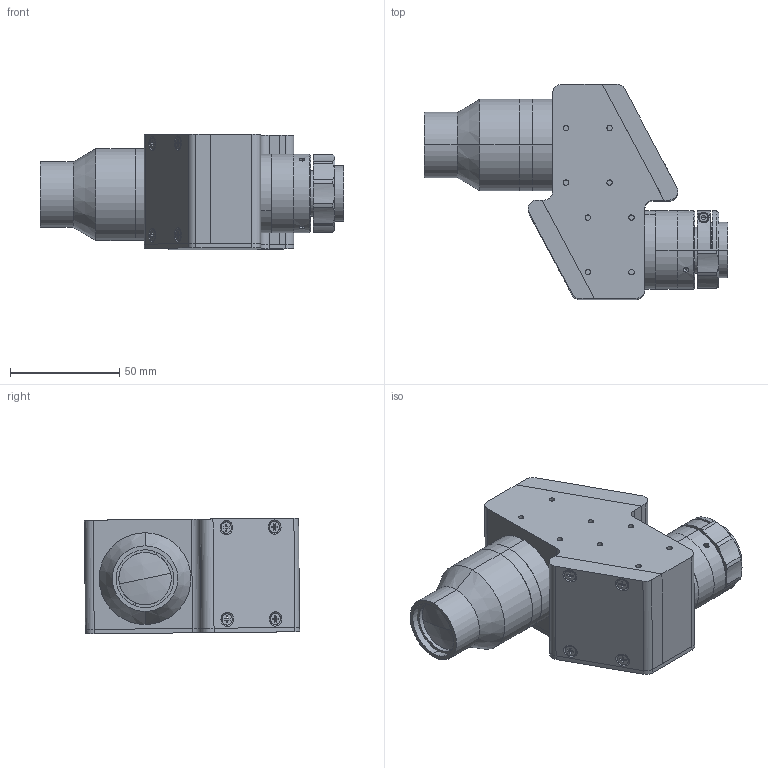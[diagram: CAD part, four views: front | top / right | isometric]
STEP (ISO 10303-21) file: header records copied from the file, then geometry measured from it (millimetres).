
FILE_DESCRIPTION (( 'STEP AP203' ), '1' );
FILE_NAME ('XF-MH08X213.STEP', '2020-08-24T07:13:59', ( 'canrill-02' ), ( '' ), 'SwSTEP 2.0', 'SolidWorks 2014', '' );
FILE_SCHEMA (( 'CONFIG_CONTROL_DESIGN' ));
Length unit declared in the file: millimetre
Products named in the file (1): XF-MH08X213
Bounding box: 138.76 x 98.5 x 52.95 mm (x, y, z)
Surface area: 42323.5 mm2 (no closed solid volume)
Topology: 0 solids, 31 shells, 429 faces, 1319 edges, 902 vertices
Faces by surface type: plane 221, cylinder 161, cone 43, sphere 2, torus 2
Entity records: 15040 total; most frequent: CARTESIAN_POINT 2970, DIRECTION 2614, ORIENTED_EDGE 2235, EDGE_CURVE 1317, VERTEX_POINT 902, AXIS2_PLACEMENT_3D 890, LINE 834, VECTOR 834
